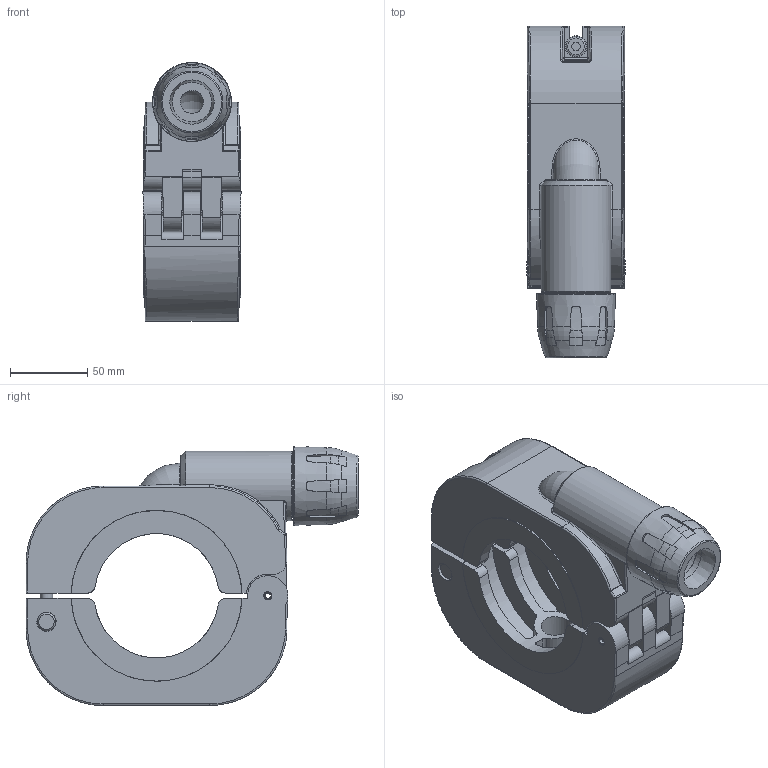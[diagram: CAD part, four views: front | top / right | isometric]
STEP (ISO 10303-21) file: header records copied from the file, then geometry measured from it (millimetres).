
FILE_DESCRIPTION( ( 'STEP AP214' ), '1' );
FILE_NAME( ' ', ' ', ( ' ' ), ( ' ' ), 'PSStep 11.0', 'VISI 17.0', ' ' );
FILE_SCHEMA( ( 'AUTOMOTIVE_DESIGN { 1 0 10303 214 1 1 1 1 }' ) );
Length unit declared in the file: millimetre
Products named in the file (7): 1; 2; 3; 4; 5; 6; 7
Bounding box: 63.45 x 214.84 x 167.58 mm (x, y, z)
Volume: 945888.6 mm3; surface area: 158591.6 mm2
Topology: 7 solids, 7 shells, 500 faces, 1381 edges, 903 vertices
Faces by surface type: plane 218, cylinder 154, bspline 56, cone 50, torus 12, sphere 6, extrusion 4
Full cylindrical faces by diameter (mm): 5.3 x1, 5.8 x4, 8 x2, 9 x1, 12 x1, 12.5 x1, 13 x1, 14 x1, 15 x1, 20 x1, 20.5 x1, 25.7 x1, 29.5 x1, 34 x1, 35.984 x2, 36 x1, 37.774 x1, 39 x2, 45 x1, 48.6 x1
Entity records: 31451 total; most frequent: CARTESIAN_POINT 15426, ORIENTED_EDGE 2606, DIRECTION 2319, EDGE_CURVE 1303, AXIS2_PLACEMENT_3D 922, VERTEX_POINT 875, EDGE_LOOP 582, FACE_OUTER_BOUND 539
